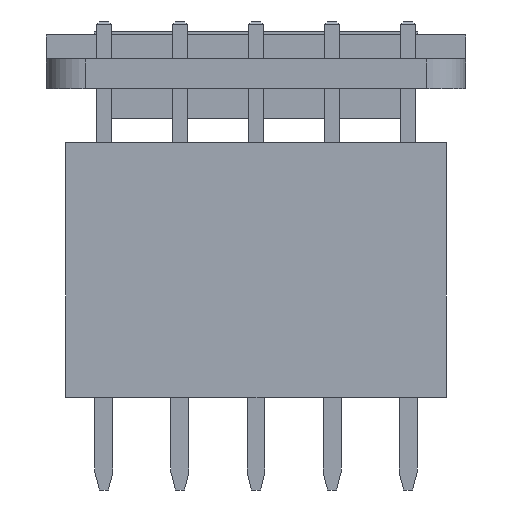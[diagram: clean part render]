
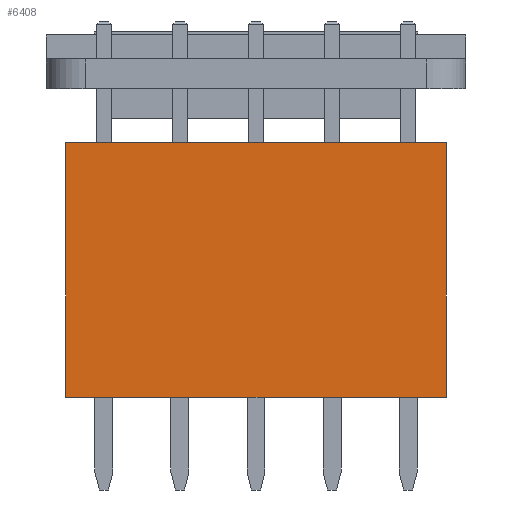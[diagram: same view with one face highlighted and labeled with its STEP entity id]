
A CAD part, front view. The second image highlights one B-rep face of the part: STEP entity #6408.
In plain terms, the highlighted planar face has unit normal (0, -1, 0).
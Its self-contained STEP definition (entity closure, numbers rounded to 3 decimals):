
#4202 = PLANE('',#4203);
#4203 = AXIS2_PLACEMENT_3D('',#4204,#4205,#4206);
#4204 = CARTESIAN_POINT('',(292.825,-102.47,7.6));
#4205 = DIRECTION('',(-1.,0.,0.));
#4206 = DIRECTION('',(0.,1.,0.));
#4230 = PLANE('',#4231);
#4231 = AXIS2_PLACEMENT_3D('',#4232,#4233,#4234);
#4232 = CARTESIAN_POINT('',(286.475,-101.2,16.1));
#4233 = DIRECTION('',(0.,0.,1.));
#4234 = DIRECTION('',(-1.,0.,0.));
#4258 = PLANE('',#4259);
#4259 = AXIS2_PLACEMENT_3D('',#4260,#4261,#4262);
#4260 = CARTESIAN_POINT('',(280.125,-99.93,7.6));
#4261 = DIRECTION('',(1.,0.,0.));
#4262 = DIRECTION('',(0.,-1.,0.));
#4300 = VERTEX_POINT('',#4301);
#4301 = CARTESIAN_POINT('',(292.825,-102.47,7.6));
#4317 = PLANE('',#4318);
#4318 = AXIS2_PLACEMENT_3D('',#4319,#4320,#4321);
#4319 = CARTESIAN_POINT('',(286.475,-101.2,7.6));
#4320 = DIRECTION('',(0.,0.,1.));
#4321 = DIRECTION('',(-1.,0.,0.));
#4329 = EDGE_CURVE('',#4300,#4330,#4332,.T.);
#4330 = VERTEX_POINT('',#4331);
#4331 = CARTESIAN_POINT('',(292.825,-102.47,16.1));
#4332 = SURFACE_CURVE('',#4333,(#4337,#4344),.PCURVE_S1.);
#4333 = LINE('',#4334,#4335);
#4334 = CARTESIAN_POINT('',(292.825,-102.47,7.6));
#4335 = VECTOR('',#4336,1.);
#4336 = DIRECTION('',(0.,0.,1.));
#4337 = PCURVE('',#4202,#4338);
#4338 = DEFINITIONAL_REPRESENTATION('',(#4339),#4343);
#4339 = LINE('',#4340,#4341);
#4340 = CARTESIAN_POINT('',(0.,0.));
#4341 = VECTOR('',#4342,1.);
#4342 = DIRECTION('',(0.,-1.));
#4343 = ( GEOMETRIC_REPRESENTATION_CONTEXT(2) 
PARAMETRIC_REPRESENTATION_CONTEXT() REPRESENTATION_CONTEXT('2D SPACE',''
  ) );
#4344 = PCURVE('',#4345,#4350);
#4345 = PLANE('',#4346);
#4346 = AXIS2_PLACEMENT_3D('',#4347,#4348,#4349);
#4347 = CARTESIAN_POINT('',(280.125,-102.47,7.6));
#4348 = DIRECTION('',(0.,1.,0.));
#4349 = DIRECTION('',(1.,0.,0.));
#4350 = DEFINITIONAL_REPRESENTATION('',(#4351),#4355);
#4351 = LINE('',#4352,#4353);
#4352 = CARTESIAN_POINT('',(12.7,0.));
#4353 = VECTOR('',#4354,1.);
#4354 = DIRECTION('',(0.,-1.));
#4355 = ( GEOMETRIC_REPRESENTATION_CONTEXT(2) 
PARAMETRIC_REPRESENTATION_CONTEXT() REPRESENTATION_CONTEXT('2D SPACE',''
  ) );
#4512 = VERTEX_POINT('',#4513);
#4513 = CARTESIAN_POINT('',(280.125,-102.47,16.1));
#4534 = EDGE_CURVE('',#4535,#4512,#4537,.T.);
#4535 = VERTEX_POINT('',#4536);
#4536 = CARTESIAN_POINT('',(280.125,-102.47,7.6));
#4537 = SURFACE_CURVE('',#4538,(#4542,#4549),.PCURVE_S1.);
#4538 = LINE('',#4539,#4540);
#4539 = CARTESIAN_POINT('',(280.125,-102.47,7.6));
#4540 = VECTOR('',#4541,1.);
#4541 = DIRECTION('',(0.,0.,1.));
#4542 = PCURVE('',#4258,#4543);
#4543 = DEFINITIONAL_REPRESENTATION('',(#4544),#4548);
#4544 = LINE('',#4545,#4546);
#4545 = CARTESIAN_POINT('',(2.54,0.));
#4546 = VECTOR('',#4547,1.);
#4547 = DIRECTION('',(0.,-1.));
#4548 = ( GEOMETRIC_REPRESENTATION_CONTEXT(2) 
PARAMETRIC_REPRESENTATION_CONTEXT() REPRESENTATION_CONTEXT('2D SPACE',''
  ) );
#4549 = PCURVE('',#4345,#4550);
#4550 = DEFINITIONAL_REPRESENTATION('',(#4551),#4555);
#4551 = LINE('',#4552,#4553);
#4552 = CARTESIAN_POINT('',(0.,0.));
#4553 = VECTOR('',#4554,1.);
#4554 = DIRECTION('',(0.,-1.));
#4555 = ( GEOMETRIC_REPRESENTATION_CONTEXT(2) 
PARAMETRIC_REPRESENTATION_CONTEXT() REPRESENTATION_CONTEXT('2D SPACE',''
  ) );
#4679 = EDGE_CURVE('',#4512,#4330,#4680,.T.);
#4680 = SURFACE_CURVE('',#4681,(#4685,#4692),.PCURVE_S1.);
#4681 = LINE('',#4682,#4683);
#4682 = CARTESIAN_POINT('',(280.125,-102.47,16.1));
#4683 = VECTOR('',#4684,1.);
#4684 = DIRECTION('',(1.,0.,0.));
#4685 = PCURVE('',#4230,#4686);
#4686 = DEFINITIONAL_REPRESENTATION('',(#4687),#4691);
#4687 = LINE('',#4688,#4689);
#4688 = CARTESIAN_POINT('',(6.35,1.27));
#4689 = VECTOR('',#4690,1.);
#4690 = DIRECTION('',(-1.,0.));
#4691 = ( GEOMETRIC_REPRESENTATION_CONTEXT(2) 
PARAMETRIC_REPRESENTATION_CONTEXT() REPRESENTATION_CONTEXT('2D SPACE',''
  ) );
#4692 = PCURVE('',#4345,#4693);
#4693 = DEFINITIONAL_REPRESENTATION('',(#4694),#4698);
#4694 = LINE('',#4695,#4696);
#4695 = CARTESIAN_POINT('',(0.,-8.5));
#4696 = VECTOR('',#4697,1.);
#4697 = DIRECTION('',(1.,0.));
#4698 = ( GEOMETRIC_REPRESENTATION_CONTEXT(2) 
PARAMETRIC_REPRESENTATION_CONTEXT() REPRESENTATION_CONTEXT('2D SPACE',''
  ) );
#5297 = EDGE_CURVE('',#4535,#4300,#5298,.T.);
#5298 = SURFACE_CURVE('',#5299,(#5303,#5310),.PCURVE_S1.);
#5299 = LINE('',#5300,#5301);
#5300 = CARTESIAN_POINT('',(280.125,-102.47,7.6));
#5301 = VECTOR('',#5302,1.);
#5302 = DIRECTION('',(1.,0.,0.));
#5303 = PCURVE('',#4317,#5304);
#5304 = DEFINITIONAL_REPRESENTATION('',(#5305),#5309);
#5305 = LINE('',#5306,#5307);
#5306 = CARTESIAN_POINT('',(6.35,1.27));
#5307 = VECTOR('',#5308,1.);
#5308 = DIRECTION('',(-1.,0.));
#5309 = ( GEOMETRIC_REPRESENTATION_CONTEXT(2) 
PARAMETRIC_REPRESENTATION_CONTEXT() REPRESENTATION_CONTEXT('2D SPACE',''
  ) );
#5310 = PCURVE('',#4345,#5311);
#5311 = DEFINITIONAL_REPRESENTATION('',(#5312),#5316);
#5312 = LINE('',#5313,#5314);
#5313 = CARTESIAN_POINT('',(0.,0.));
#5314 = VECTOR('',#5315,1.);
#5315 = DIRECTION('',(1.,0.));
#5316 = ( GEOMETRIC_REPRESENTATION_CONTEXT(2) 
PARAMETRIC_REPRESENTATION_CONTEXT() REPRESENTATION_CONTEXT('2D SPACE',''
  ) );
#6408 = ADVANCED_FACE('',(#6409),#4345,.F.);
#6409 = FACE_BOUND('',#6410,.F.);
#6410 = EDGE_LOOP('',(#6411,#6412,#6413,#6414));
#6411 = ORIENTED_EDGE('',*,*,#4534,.T.);
#6412 = ORIENTED_EDGE('',*,*,#4679,.T.);
#6413 = ORIENTED_EDGE('',*,*,#4329,.F.);
#6414 = ORIENTED_EDGE('',*,*,#5297,.F.);
